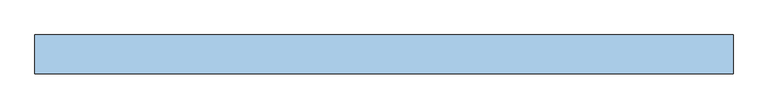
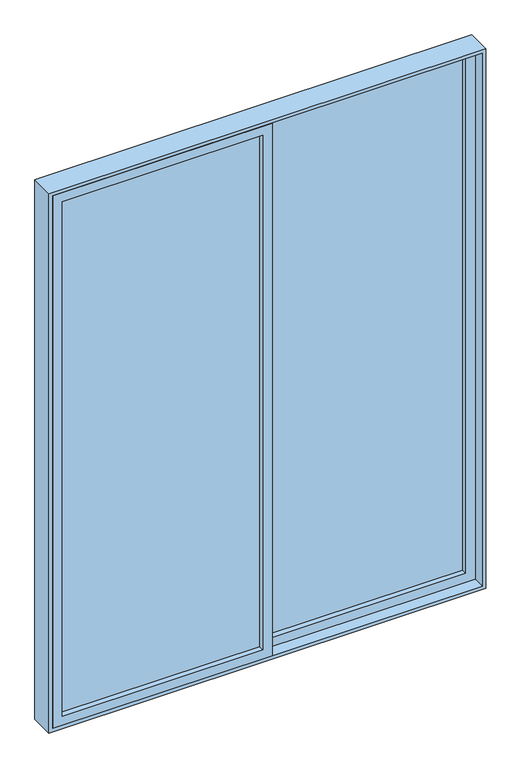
"""IFC4 building model written with IfcOpenShell, lengths in millimetres: window geometry, VENT_ALUM_CORR_2HOJAS_CORRE 1 : V5-VENT_ALUM_CORR_2HOJAS_CORRE 2 - SALIDA REC PB."""

from ifc_helpers import new_model, si_unit, frame, origin, place, context, project, spatial, polyline, outline, extrude, source, transform, mapped, element, save


def window_99f860c4(model_context):
    return source(origin(), model_context, "Body", "SweptSolid", [
        extrude(outline(polyline([(-20.0, -28.0), (-845.0, -28.0), (-845.0, -22.0), (-20.0, -22.0), (-20.0, -28.0)])), frame((0.0, 0.0, 55.0), z_axis=(0.0, 0.0, 1.0), x_axis=(1.0, 0.0, 0.0)), (0.0, 0.0, 1.0), 2240.0),
        extrude(outline(polyline([(15.0, -885.0), (15.0, 20.0), (2335.0, 20.0), (2335.0, -885.0), (15.0, -885.0)]), holes=[polyline([(2295.0, -845.0), (2295.0, -20.0), (55.0, -20.0), (55.0, -845.0), (2295.0, -845.0)])]), frame((0.0, -50.0, 0.0), z_axis=(0.0, 1.0, 0.0), x_axis=(0.0, 0.0, 1.0)), (0.0, 0.0, 1.0), 50.0),
        extrude(outline(polyline([(20.0, 28.0), (845.0, 28.0), (845.0, 22.0), (20.0, 22.0), (20.0, 28.0)])), frame((0.0, 0.0, 55.0), z_axis=(0.0, 0.0, 1.0), x_axis=(1.0, 0.0, 0.0)), (0.0, 0.0, 1.0), 2240.0),
        extrude(outline(polyline([(15.0, -20.0), (15.0, 885.0), (2335.0, 885.0), (2335.0, -20.0), (15.0, -20.0)]), holes=[polyline([(2295.0, 20.0), (2295.0, 845.0), (55.0, 845.0), (55.0, 20.0), (2295.0, 20.0)])]), frame((0.0, 0.0, 0.0), z_axis=(0.0, 1.0, 0.0), x_axis=(0.0, 0.0, 1.0)), (0.0, 0.0, 1.0), 50.0),
        extrude(outline(polyline([(0.0, -900.0), (0.0, 900.0), (2350.0, 900.0), (2350.0, -900.0), (0.0, -900.0)]), holes=[polyline([(2335.0, -885.0), (2335.0, 885.0), (15.0, 885.0), (15.0, -885.0), (2335.0, -885.0)])]), frame((0.0, -50.0, 0.0), z_axis=(0.0, 1.0, 0.0), x_axis=(0.0, 0.0, 1.0)), (0.0, 0.0, 1.0), 100.0),
    ])


if __name__ == "__main__":
    model = new_model("IFC4")
    model_context = context("Model", 3, world=origin())
    ifc_project = project(units=[si_unit("LENGTHUNIT", "METRE", prefix="MILLI")], contexts=[model_context])
    site = spatial("IfcSite", under=ifc_project)
    building = spatial("IfcBuilding", under=site)
    placement = place(None, origin())
    window_shape = window_99f860c4(model_context)
    element("IfcWindow", 1, ObjectType="VENT_ALUM_CORR_2HOJAS_CORRE 1 : V5-VENT_ALUM_CORR_2HOJAS_CORRE 2 - SALIDA REC PB", at=placement, inside=building, context=model_context, shape_type="MappedRepresentation", body=[
        mapped(window_shape, transform((0.0, 0.0, 0.0), x_axis=(1.0, 0.0, 0.0), y_axis=(0.0, 1.0, 0.0), z_axis=(0.0, 0.0, 1.0))),
    ])
    save(model, "model.ifc")
